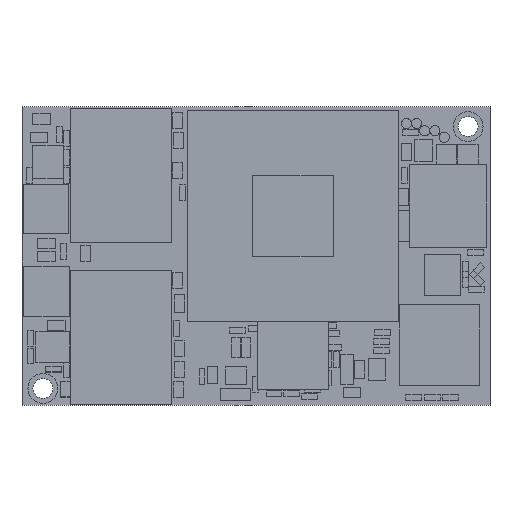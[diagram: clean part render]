
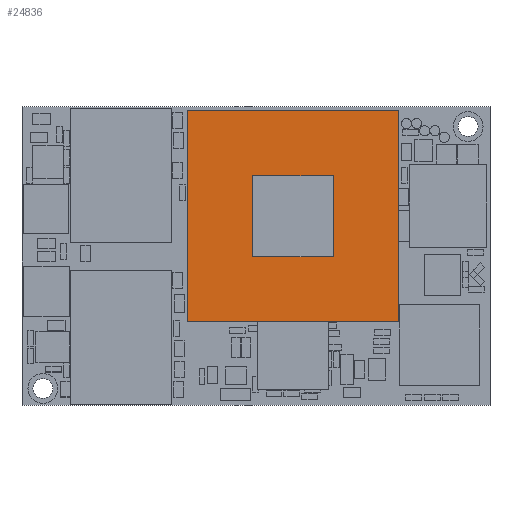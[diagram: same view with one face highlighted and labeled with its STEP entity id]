
A CAD part, top view. The second image highlights one B-rep face of the part: STEP entity #24836.
In plain terms, the highlighted planar face has unit normal (0, 0, 1).
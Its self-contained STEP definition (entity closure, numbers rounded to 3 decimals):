
#3063 = ORIENTED_EDGE ( 'NONE', *, *, #60241, .T. ) ;
#3415 = CARTESIAN_POINT ( 'NONE',  ( 23.16, 23.032, 3.15 ) ) ;
#5447 = DIRECTION ( 'NONE',  ( 1., 0., 0. ) ) ;
#5653 = DIRECTION ( 'NONE',  ( 0., 0., 1. ) ) ;
#8607 = LINE ( 'NONE', #93795, #76095 ) ;
#9621 = VERTEX_POINT ( 'NONE', #97034 ) ;
#13070 = EDGE_CURVE ( 'NONE', #41915, #104097, #59886, .T. ) ;
#14434 = CARTESIAN_POINT ( 'NONE',  ( 37.819, 8.373, 3.15 ) ) ;
#16440 = LINE ( 'NONE', #14434, #86587 ) ;
#19356 = CARTESIAN_POINT ( 'NONE',  ( 16.601, 29.591, 3.15 ) ) ;
#19461 = DIRECTION ( 'NONE',  ( -1., 0., 0. ) ) ;
#20012 = FACE_OUTER_BOUND ( 'NONE', #97123, .T. ) ;
#24836 = ADVANCED_FACE ( 'NONE', ( #85050, #20012 ), #70800, .T. ) ;
#24912 = ORIENTED_EDGE ( 'NONE', *, *, #59786, .T. ) ;
#29588 = CARTESIAN_POINT ( 'NONE',  ( 31.26, 14.932, 3.15 ) ) ;
#31208 = CARTESIAN_POINT ( 'NONE',  ( 37.819, 8.373, 3.15 ) ) ;
#31306 = EDGE_LOOP ( 'NONE', ( #87470, #60777, #100629, #71732 ) ) ;
#32606 = ORIENTED_EDGE ( 'NONE', *, *, #84925, .T. ) ;
#37812 = DIRECTION ( 'NONE',  ( -1., 0., 0. ) ) ;
#41293 = EDGE_CURVE ( 'NONE', #9621, #49317, #76993, .T. ) ;
#41915 = VERTEX_POINT ( 'NONE', #29588 ) ;
#42014 = VECTOR ( 'NONE', #61188, 1000. ) ;
#43460 = VECTOR ( 'NONE', #98267, 1000. ) ;
#44206 = VECTOR ( 'NONE', #83456, 1000. ) ;
#44651 = LINE ( 'NONE', #48712, #43460 ) ;
#45171 = CARTESIAN_POINT ( 'NONE',  ( 31.26, 14.932, 3.15 ) ) ;
#48712 = CARTESIAN_POINT ( 'NONE',  ( 23.16, 14.932, 3.15 ) ) ;
#49317 = VERTEX_POINT ( 'NONE', #61404 ) ;
#49708 = LINE ( 'NONE', #3415, #91853 ) ;
#54494 = CARTESIAN_POINT ( 'NONE',  ( 37.819, 29.591, 3.15 ) ) ;
#55559 = EDGE_CURVE ( 'NONE', #58213, #90340, #44651, .T. ) ;
#58213 = VERTEX_POINT ( 'NONE', #96451 ) ;
#58614 = VERTEX_POINT ( 'NONE', #54494 ) ;
#59786 = EDGE_CURVE ( 'NONE', #103421, #58614, #16440, .T. ) ;
#59886 = LINE ( 'NONE', #45171, #42014 ) ;
#60241 = EDGE_CURVE ( 'NONE', #58614, #9621, #69778, .T. ) ;
#60777 = ORIENTED_EDGE ( 'NONE', *, *, #55559, .F. ) ;
#61188 = DIRECTION ( 'NONE',  ( 0., 1., 0. ) ) ;
#61404 = CARTESIAN_POINT ( 'NONE',  ( 16.601, 8.373, 3.15 ) ) ;
#63399 = CARTESIAN_POINT ( 'NONE',  ( 37.819, 29.591, 3.15 ) ) ;
#69778 = LINE ( 'NONE', #63399, #97958 ) ;
#70800 = PLANE ( 'NONE',  #84605 ) ;
#71732 = ORIENTED_EDGE ( 'NONE', *, *, #13070, .F. ) ;
#73427 = EDGE_CURVE ( 'NONE', #104097, #58213, #49708, .T. ) ;
#75201 = CARTESIAN_POINT ( 'NONE',  ( 16.601, 8.373, 3.15 ) ) ;
#75775 = VECTOR ( 'NONE', #100661, 1000. ) ;
#76095 = VECTOR ( 'NONE', #5447, 1000. ) ;
#76993 = LINE ( 'NONE', #19356, #75775 ) ;
#78650 = CARTESIAN_POINT ( 'NONE',  ( 0., 0., 3.15 ) ) ;
#79903 = LINE ( 'NONE', #75201, #44206 ) ;
#80075 = ORIENTED_EDGE ( 'NONE', *, *, #41293, .T. ) ;
#83456 = DIRECTION ( 'NONE',  ( 1., 0., 0. ) ) ;
#84605 = AXIS2_PLACEMENT_3D ( 'NONE', #78650, #5653, #95430 ) ;
#84925 = EDGE_CURVE ( 'NONE', #49317, #103421, #79903, .T. ) ;
#85050 = FACE_BOUND ( 'NONE', #31306, .T. ) ;
#86587 = VECTOR ( 'NONE', #88135, 1000. ) ;
#87470 = ORIENTED_EDGE ( 'NONE', *, *, #103953, .F. ) ;
#88135 = DIRECTION ( 'NONE',  ( 0., 1., 0. ) ) ;
#90340 = VERTEX_POINT ( 'NONE', #98980 ) ;
#91853 = VECTOR ( 'NONE', #19461, 1000. ) ;
#93795 = CARTESIAN_POINT ( 'NONE',  ( 23.16, 14.932, 3.15 ) ) ;
#95430 = DIRECTION ( 'NONE',  ( 1., 0., 0. ) ) ;
#95585 = CARTESIAN_POINT ( 'NONE',  ( 31.26, 23.032, 3.15 ) ) ;
#96451 = CARTESIAN_POINT ( 'NONE',  ( 23.16, 23.032, 3.15 ) ) ;
#97034 = CARTESIAN_POINT ( 'NONE',  ( 16.601, 29.591, 3.15 ) ) ;
#97123 = EDGE_LOOP ( 'NONE', ( #24912, #3063, #80075, #32606 ) ) ;
#97958 = VECTOR ( 'NONE', #37812, 1000. ) ;
#98267 = DIRECTION ( 'NONE',  ( 0., -1., 0. ) ) ;
#98980 = CARTESIAN_POINT ( 'NONE',  ( 23.16, 14.932, 3.15 ) ) ;
#100629 = ORIENTED_EDGE ( 'NONE', *, *, #73427, .F. ) ;
#100661 = DIRECTION ( 'NONE',  ( 0., -1., 0. ) ) ;
#103421 = VERTEX_POINT ( 'NONE', #31208 ) ;
#103953 = EDGE_CURVE ( 'NONE', #90340, #41915, #8607, .T. ) ;
#104097 = VERTEX_POINT ( 'NONE', #95585 ) ;
